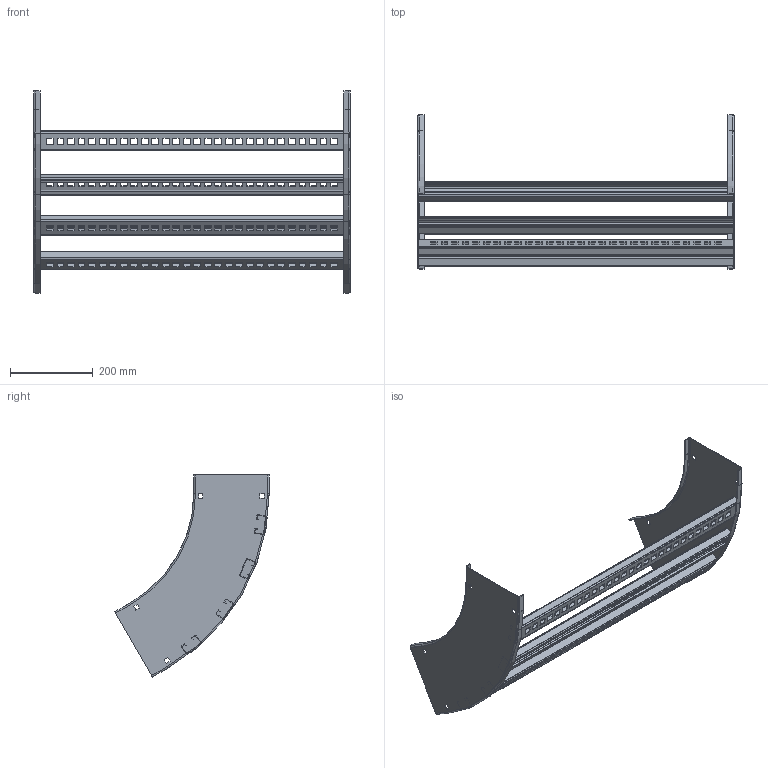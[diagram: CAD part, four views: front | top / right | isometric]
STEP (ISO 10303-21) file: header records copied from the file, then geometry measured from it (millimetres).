
FILE_DESCRIPTION((''),'2;1');
FILE_NAME('AUF730VVI6012_ASM','2010-02-01T',('erouzier'),(''),'PRO/ENGINEER BY PARAMETRIC TECHNOLOGY CORPORATION, 2008510','PRO/ENGINEER BY PARAMETRIC TECHNOLOGY CORPORATION, 2008510','');
FILE_SCHEMA(('CONFIG_CONTROL_DESIGN'));
Length unit declared in the file: inch
Products named in the file (3): CDS001419_7_60_12; CDS002159L30-P; AUF730VVI6012_ASM
Assembly tree (6 placements, depth 2):
  AUF730VVI6012_ASM
    CDS001419_7_60_12  x2
    CDS002159L30-P  x4
Bounding box: 766.11 x 373.32 x 488.62 mm (x, y, z)
Volume: 819582.1 mm3; surface area: 1094762.9 mm2
Topology: 6 solids, 6 shells, 1132 faces, 3296 edges, 2176 vertices
Faces by surface type: plane 608, cylinder 516, torus 8
Entity records: 10448 total; most frequent: DIRECTION 1808, CARTESIAN_POINT 1797, ORIENTED_EDGE 1784, EDGE_CURVE 892, VECTOR 618, LINE 618, AXIS2_PLACEMENT_3D 595, VERTEX_POINT 584
